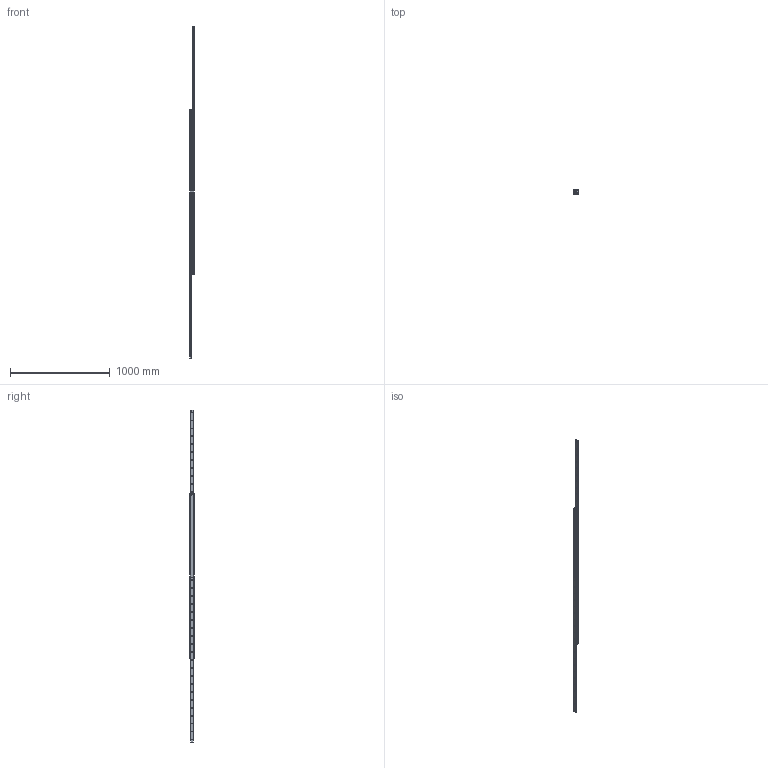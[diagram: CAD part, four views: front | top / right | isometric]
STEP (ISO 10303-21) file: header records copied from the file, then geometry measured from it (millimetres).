
FILE_DESCRIPTION( ( 'STEP AP214' ), '1' );
FILE_NAME( 'p:/temp/worker_87/temp/exporttempdir_3488_859_N6q91/format_0/DEF43-16501686.stp', '2020-03-20T20:04:04', ( 'License CC BY-ND 4.0' ), ( 'CADENAS' ), ' ', 'PARTsolutions', ' ' );
FILE_SCHEMA( ( 'AUTOMOTIVE_DESIGN { 1 0 10303 214 1 1 1 1 }' ) );
Length unit declared in the file: millimetre
Products named in the file (4): DEF43-16501686; _43211650168612-gf; _4321165016861-ei; _43211650168611-gf
Assembly tree (4 placements, depth 2):
  DEF43-16501686
    _43211650168612-gf
    _4321165016861-ei  x2
    _43211650168611-gf
Bounding box: 44 x 43 x 3336 mm (x, y, z)
Volume: 2039382 mm3; surface area: 776624.2 mm2
Topology: 4 solids, 4 shells, 278 faces, 686 edges, 428 vertices
Faces by surface type: plane 102, cylinder 88, cone 88
Full cylindrical faces by diameter (mm): 4.134 x2, 6.647 x42, 7 x2
Entity records: 8160 total; most frequent: DIRECTION 1136, CARTESIAN_POINT 1011, ORIENTED_EDGE 862, AXIS2_PLACEMENT_3D 470, EDGE_LOOP 452, EDGE_CURVE 431, VERTEX_POINT 345, FACE_OUTER_BOUND 274
